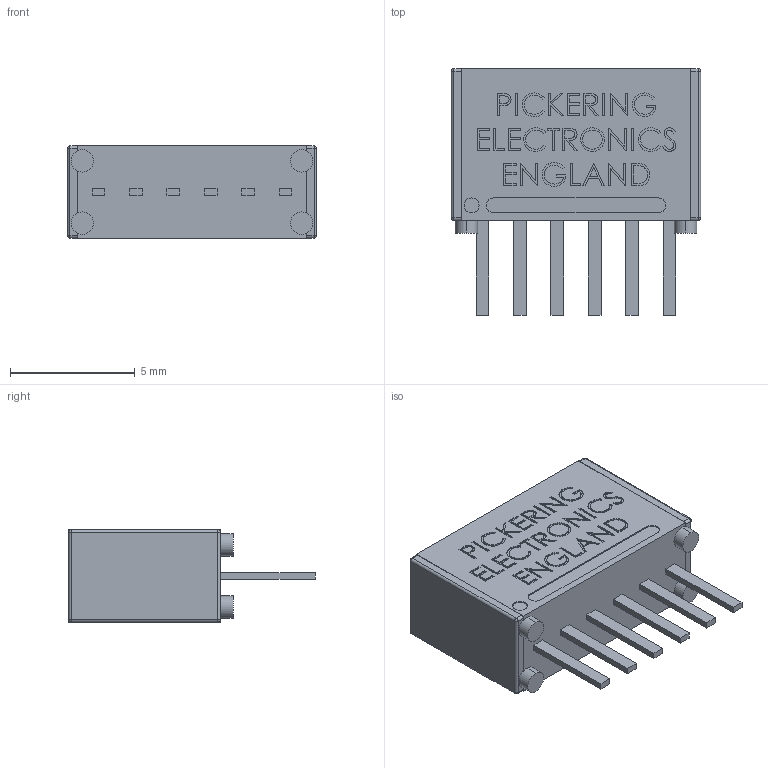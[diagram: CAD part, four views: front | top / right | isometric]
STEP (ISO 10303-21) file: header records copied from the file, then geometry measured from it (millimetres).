
FILE_DESCRIPTION (( 'STEP AP203' ), '1' );
FILE_NAME ('111RF-1-A.STEP', '2010-06-29T10:58:53', ( ' ' ), ( '' ), 'SwSTEP 2.0', 'SolidWorks 2009', '' );
FILE_SCHEMA (( 'CONFIG_CONTROL_DESIGN' ));
Products named in the file (1): 111RF-1-A
Bounding box: 10 x 9.9 x 3.7 mm (x, y, z)
Volume: 228.6 mm3; surface area: 386.4 mm2
Topology: 7 solids, 7 shells, 829 faces, 2159 edges, 1426 vertices
Faces by surface type: plane 597, bspline 192, cylinder 32, sphere 8
Entity records: 35762 total; most frequent: CARTESIAN_POINT 16631, ORIENTED_EDGE 4302, DIRECTION 3107, EDGE_CURVE 2151, VECTOR 1703, LINE 1703, VERTEX_POINT 1426, EDGE_LOOP 919
